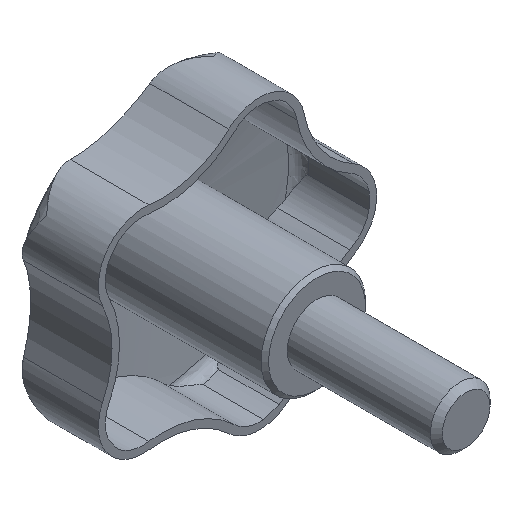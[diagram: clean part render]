
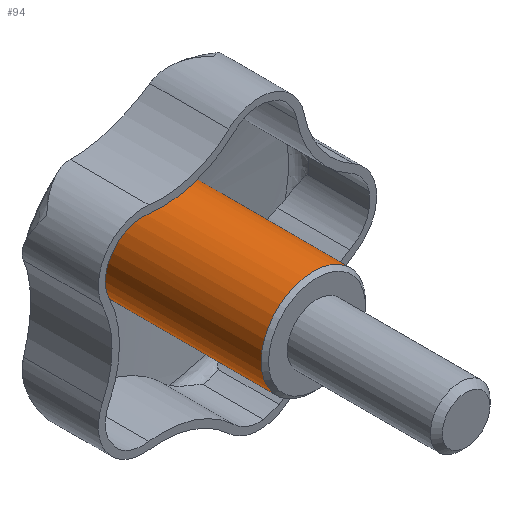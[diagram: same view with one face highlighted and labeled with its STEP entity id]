
A CAD part, isometric view. The second image highlights one B-rep face of the part: STEP entity #94.
In plain terms, the highlighted cylindrical face has radius 7 mm (diameter 14 mm), a full revolution.
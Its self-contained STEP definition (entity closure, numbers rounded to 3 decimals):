
#94 = ADVANCED_FACE( '', ( #165, #166 ), #167, .T. );
#165 = FACE_OUTER_BOUND( '', #271, .T. );
#166 = FACE_OUTER_BOUND( '', #272, .T. );
#167 = CYLINDRICAL_SURFACE( '', #273, 7. );
#271 = EDGE_LOOP( '', ( #530 ) );
#272 = EDGE_LOOP( '', ( #531 ) );
#273 = AXIS2_PLACEMENT_3D( '', #532, #533, #534 );
#530 = ORIENTED_EDGE( '', *, *, #847, .F. );
#531 = ORIENTED_EDGE( '', *, *, #832, .T. );
#532 = CARTESIAN_POINT( '', ( 0., -20., 0. ) );
#533 = DIRECTION( '', ( 0., 1., 0. ) );
#534 = DIRECTION( '', ( 0., 0., -1. ) );
#832 = EDGE_CURVE( '', #1032, #1032, #1033, .T. );
#847 = EDGE_CURVE( '', #1059, #1059, #1060, .T. );
#1032 = VERTEX_POINT( '', #1600 );
#1033 = CIRCLE( '', #1601, 7. );
#1059 = VERTEX_POINT( '', #1687 );
#1060 = CIRCLE( '', #1688, 7. );
#1600 = CARTESIAN_POINT( '', ( 0., 22.779, -7. ) );
#1601 = AXIS2_PLACEMENT_3D( '', #1936, #1937, #1938 );
#1687 = CARTESIAN_POINT( '', ( 0., 0.5, -7. ) );
#1688 = AXIS2_PLACEMENT_3D( '', #1951, #1952, #1953 );
#1936 = CARTESIAN_POINT( '', ( 0., 22.779, 0. ) );
#1937 = DIRECTION( '', ( 0., -1., 0. ) );
#1938 = DIRECTION( '', ( 0., 0., -1. ) );
#1951 = CARTESIAN_POINT( '', ( 0., 0.5, 0. ) );
#1952 = DIRECTION( '', ( 0., -1., 0. ) );
#1953 = DIRECTION( '', ( 0., 0., -1. ) );
